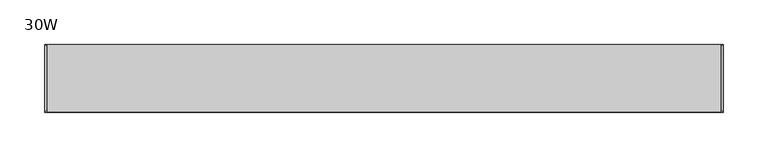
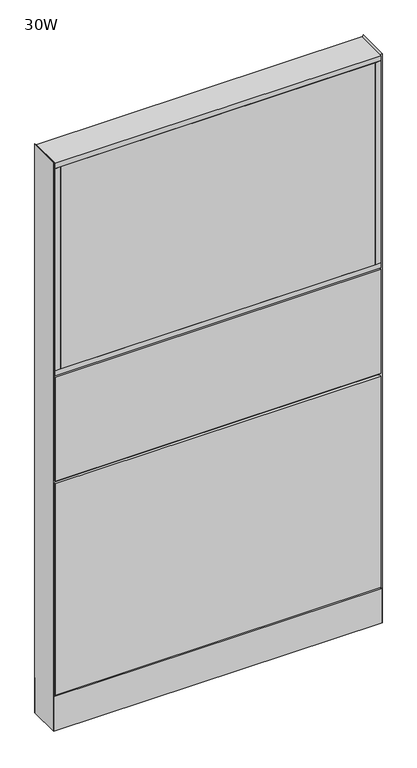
"""IFC4 building model written with IfcOpenShell, lengths in millimetres: furniture geometry, Steelcase - Montage - Frame - 55H - Enhanced Monolithic - Base Cavity : 30W."""

import ifcopenshell
import ifcopenshell.guid

model = None  # the IFC model being written
_history = None  # IfcOwnerHistory: only IFC2X3 demands one
_inside = {}  # id of a spatial element -> (the spatial element, [elements in it])
_under = {}  # id of a project, library or spatial element -> (it, [spatial elements below it])
_declared = {}  # id of a project -> (the project, [libraries it declares])
_typed = {}  # id of a type object -> (the type object, [elements of that type])
_made_of = {}  # id of a material, layer set ... -> (it, [elements and type objects made of it])


def new_model(schema):
    """Start an empty IFC model of exactly this schema.

    Asked for "IFC4X3", IfcOpenShell would pick the latest addendum, in which some entities
    have other attributes; the version numbers below select the first issue.
    IFC2X3 requires an IfcOwnerHistory on every rooted entity: one is made here for all.
    """
    global model, _history
    if schema == "IFC4X3":
        model = ifcopenshell.file(schema_version=(4, 3, 0, 0))
    else:
        model = ifcopenshell.file(schema=schema)
    _inside.clear()
    _under.clear()
    _declared.clear()
    _typed.clear()
    _made_of.clear()
    _history = None
    if model.schema == "IFC2X3":
        org = make("IfcOrganization", Name="unknown")
        user = make(
            "IfcPersonAndOrganization",
            ThePerson=make("IfcPerson", FamilyName="unknown"),
            TheOrganization=org,
        )
        app = make(
            "IfcApplication",
            ApplicationDeveloper=org,
            Version="unknown",
            ApplicationFullName="unknown",
            ApplicationIdentifier="unknown",
        )
        _history = make(
            "IfcOwnerHistory",
            OwningUser=user,
            OwningApplication=app,
            ChangeAction="ADDED",
            CreationDate=0,
        )
    return model


def make(cls, **values):
    """One entity of the class cls with the attributes given. An attribute that is None is left unset."""
    return model.create_entity(
        cls, **{name: value for name, value in values.items() if value is not None}
    )


def rooted(cls, **values):
    """An entity with a GlobalId (a new one), such as an element, a storey or a relation."""
    return make(cls, GlobalId=ifcopenshell.guid.new(), OwnerHistory=_history, **values)


def si_unit(unit_type, name, prefix=None):
    """IfcSIUnit, for example si_unit("LENGTHUNIT", "METRE", prefix="MILLI")."""
    return make("IfcSIUnit", UnitType=unit_type, Prefix=prefix, Name=name)


def assignment(units):
    """IfcUnitAssignment: the units of a project."""
    return None if units is None else make("IfcUnitAssignment", Units=units)


def point(xyz):
    """IfcCartesianPoint."""
    return None if xyz is None else make("IfcCartesianPoint", Coordinates=xyz)


def direction(xyz):
    """IfcDirection."""
    return None if xyz is None else make("IfcDirection", DirectionRatios=xyz)


def frame(location, z_axis=None, x_axis=None):
    """IfcAxis2Placement3D, a coordinate frame: its origin and axes. An axis left out is left unset."""
    return make(
        "IfcAxis2Placement3D",
        Location=point(location),
        Axis=direction(z_axis),
        RefDirection=direction(x_axis),
    )


def frame_2d(location, x_axis=None):
    """IfcAxis2Placement2D, a coordinate frame in the plane: its origin and x axis."""
    return make(
        "IfcAxis2Placement2D", Location=point(location), RefDirection=direction(x_axis)
    )


def origin():
    """The frame at (0, 0, 0) with its axes left unset."""
    return frame((0.0, 0.0, 0.0))


def origin_with_axes():
    """The frame at (0, 0, 0) with the z axis (0, 0, 1) and the x axis (1, 0, 0) written out."""
    return frame((0.0, 0.0, 0.0), z_axis=(0.0, 0.0, 1.0), x_axis=(1.0, 0.0, 0.0))


def place(relative_to, where):
    """IfcLocalPlacement: puts the frame where relative to a parent placement (None: the world)."""
    return make(
        "IfcLocalPlacement", PlacementRelTo=relative_to, RelativePlacement=where
    )


def context(
    kind, dimensions, precision=None, world=None, true_north=None, identifier=None
):
    """IfcGeometricRepresentationContext, for example the 3D "Model" context."""
    return make(
        "IfcGeometricRepresentationContext",
        ContextIdentifier=identifier,
        ContextType=kind,
        CoordinateSpaceDimension=dimensions,
        Precision=precision,
        WorldCoordinateSystem=world,
        TrueNorth=true_north,
    )


def project(units=None, contexts=None):
    """IfcProject with its units and contexts."""
    return rooted(
        "IfcProject",
        Name="project",
        RepresentationContexts=contexts,
        UnitsInContext=assignment(units),
    )


def spatial(cls, under=None, at=None, **own):
    """A site, building, storey or space (cls), placed at a placement, below another one or the project."""
    s = rooted(cls, ObjectPlacement=at, **own)
    if under is not None:
        _under.setdefault(under.id(), (under, []))[1].append(s)
    return s


def polyline(points):
    """IfcPolyline through the points."""
    return make("IfcPolyline", Points=[point(p) for p in points])


def circle_curve(where, radius):
    """IfcCircle in the frame where."""
    return make("IfcCircle", Position=where, Radius=radius)


def trimmed(basis, trim1, trim2, sense, master):
    """IfcTrimmedCurve: the piece of a basis curve between two trims."""
    return make(
        "IfcTrimmedCurve",
        BasisCurve=basis,
        Trim1=trim1,
        Trim2=trim2,
        SenseAgreement=sense,
        MasterRepresentation=master,
    )


def segment(curve, same_sense, transition):
    """IfcCompositeCurveSegment."""
    return make(
        "IfcCompositeCurveSegment",
        Transition=transition,
        SameSense=same_sense,
        ParentCurve=curve,
    )


def composite_curve(segments, self_intersect=None):
    """IfcCompositeCurve: segments joined end to end."""
    return make("IfcCompositeCurve", Segments=segments, SelfIntersect=self_intersect)


def outline(outer, holes=None, kind="AREA"):
    """IfcArbitraryClosedProfileDef: a profile drawn as a closed curve; with holes, ...WithVoids."""
    if holes is None:
        return make("IfcArbitraryClosedProfileDef", ProfileType=kind, OuterCurve=outer)
    return make(
        "IfcArbitraryProfileDefWithVoids",
        ProfileType=kind,
        OuterCurve=outer,
        InnerCurves=holes,
    )


def extrude(swept, where, along, depth):
    """IfcExtrudedAreaSolid: the profile swept, set in the frame where, extruded along a direction by depth."""
    return make(
        "IfcExtrudedAreaSolid",
        SweptArea=swept,
        Position=where,
        ExtrudedDirection=direction(along),
        Depth=depth,
    )


def faces_of(points, faces, orient=None, outer=None):
    """IfcFace entities. A face is a list of loops; a loop is a list of indices into points, from 0.

    orient and outer hold one flag for each loop. By default every Orientation is true, the
    first loop of a face is its IfcFaceOuterBound and the others are IfcFaceBound.
    """
    made = []
    for i, loops in enumerate(faces):
        bounds = []
        for j, loop in enumerate(loops):
            is_outer = j == 0 if outer is None else outer[i][j]
            bounds.append(
                make(
                    "IfcFaceOuterBound" if is_outer else "IfcFaceBound",
                    Bound=make("IfcPolyLoop", Polygon=[points[k] for k in loop]),
                    Orientation=True if orient is None else orient[i][j],
                )
            )
        made.append(make("IfcFace", Bounds=bounds))
    return made


def faceted_brep(points, faces, orient=None, outer=None, voids=None):
    """IfcFacetedBrep: a solid bounded by flat faces; with voids (closed shells), ...WithVoids."""
    shared = [point(p) for p in points]
    hull = make("IfcClosedShell", CfsFaces=faces_of(shared, faces, orient, outer))
    if voids is None:
        return make("IfcFacetedBrep", Outer=hull)
    return make(
        "IfcFacetedBrepWithVoids",
        Outer=hull,
        Voids=[
            make(cls, CfsFaces=faces_of(shared, fs, o, b)) for cls, fs, o, b in voids
        ],
    )


def shape(context_of_items, identifier, shape_type, items):
    """IfcShapeRepresentation: the items that make up one representation, for example the "Body"."""
    return make(
        "IfcShapeRepresentation",
        ContextOfItems=context_of_items,
        RepresentationIdentifier=identifier,
        RepresentationType=shape_type,
        Items=items,
    )


def source(mapping_origin, context_of_items, identifier, shape_type, items):
    """IfcRepresentationMap: a shape defined once, which mapped items show again and again."""
    return make(
        "IfcRepresentationMap",
        MappingOrigin=mapping_origin,
        MappedRepresentation=shape(context_of_items, identifier, shape_type, items),
    )


def transform(
    local_origin,
    x_axis=None,
    y_axis=None,
    z_axis=None,
    scale=None,
    scale2=None,
    scale3=None,
    uniform=True,
):
    """IfcCartesianTransformationOperator3D, or its non-uniform kind. x_axis, y_axis, z_axis: its Axis1, 2, 3."""
    if uniform:
        return make(
            "IfcCartesianTransformationOperator3D",
            Axis1=direction(x_axis),
            Axis2=direction(y_axis),
            LocalOrigin=point(local_origin),
            Scale=scale,
            Axis3=direction(z_axis),
        )
    return make(
        "IfcCartesianTransformationOperator3DnonUniform",
        Axis1=direction(x_axis),
        Axis2=direction(y_axis),
        LocalOrigin=point(local_origin),
        Scale=scale,
        Axis3=direction(z_axis),
        Scale2=scale2,
        Scale3=scale3,
    )


def mapped(mapping_source, mapping_target):
    """IfcMappedItem: shows the shape of a source again, moved by a transform."""
    return make(
        "IfcMappedItem", MappingSource=mapping_source, MappingTarget=mapping_target
    )


def made_of(thing, what):
    """Note that an element or type object is made of a material, layer set ...; save() writes the relation."""
    if what is not None:
        _made_of.setdefault(what.id(), (what, []))[1].append(thing)
    return thing


def element(
    cls,
    number,
    at=None,
    inside=None,
    cuts=None,
    type_object=None,
    material=None,
    context=None,
    identifier="Body",
    shape_type=None,
    held_by="IfcProductDefinitionShape",
    body=None,
    shapes=None,
    **own,
):
    """One element of the class cls, such as IfcWall. Its Tag is "e" and its number.

    at: its placement. inside: the storey or other place that contains it. cuts: it is an
    opening in that element (IfcRelVoidsElement). A single representation is given by context,
    identifier, shape_type and body (its items); several are given by shapes. held_by: the class
    of the entity that holds the representations. save() writes the other relations.
    """
    e = rooted(cls, Tag="e%d" % number, ObjectPlacement=at, **own)
    if body is not None:
        shapes = [shape(context, identifier, shape_type, body)]
    if shapes is not None:
        e.Representation = make(held_by, Representations=shapes)
    if inside is not None:
        _inside.setdefault(inside.id(), (inside, []))[1].append(e)
    if cuts is not None:
        rooted(
            "IfcRelVoidsElement", RelatingBuildingElement=cuts, RelatedOpeningElement=e
        )
    if type_object is not None:
        _typed.setdefault(type_object.id(), (type_object, []))[1].append(e)
    return made_of(e, material)


def aggregate(whole, parts):
    """IfcRelAggregates: a whole, such as a stair, and the parts it consists of."""
    return rooted("IfcRelAggregates", RelatingObject=whole, RelatedObjects=parts)


def save(model, path):
    """Write the relations noted so far, then the file.

    IfcRelAggregates (storeys below a building ...), IfcRelContainedInSpatialStructure (elements
    in a storey), IfcRelDefinesByType, IfcRelAssociatesMaterial and IfcRelDeclares: one each for
    every whole, place, type object, material and project.
    """
    for whole, parts in _under.values():
        aggregate(whole, parts)
    for where, things in _inside.values():
        rooted(
            "IfcRelContainedInSpatialStructure",
            RelatedElements=things,
            RelatingStructure=where,
        )
    for kind, things in _typed.values():
        rooted("IfcRelDefinesByType", RelatedObjects=things, RelatingType=kind)
    for what, things in _made_of.values():
        rooted("IfcRelAssociatesMaterial", RelatedObjects=things, RelatingMaterial=what)
    for by, libraries in _declared.values():
        rooted("IfcRelDeclares", RelatingContext=by, RelatedDefinitions=libraries)
    model.write(path)


def furniture_30w_1dd5c096(model_context):
    return source(origin(), model_context, "Body", "SolidModel", [
        extrude(outline(polyline([(15.875, 38.1000015), (746.125, 38.1000015), (746.125, 31.7500017), (15.875, 31.7500017), (15.875, 38.1000015)])), frame((0.0, 0.0, 887.4125), z_axis=(0.0, 0.0, 1.0), x_axis=(1.0, 0.0, 0.0)), (0.0, 0.0, 1.0), 495.3),
        extrude(outline(polyline([(15.875, -31.7499985), (746.125, -31.7499985), (746.125, -38.1000015), (15.875, -38.1000015), (15.875, -31.7499985)])), frame((0.0, 0.0, 887.4125), z_axis=(0.0, 0.0, 1.0), x_axis=(1.0, 0.0, 0.0)), (0.0, 0.0, 1.0), 495.3),
        extrude(outline(polyline([(3.175, -38.1000015), (3.175, 38.1000015), (15.875, 38.1000015), (15.875, -38.1000015), (3.175, -38.1000015)])), frame((0.0, 0.0, 887.4125), z_axis=(0.0, 0.0, 1.0), x_axis=(1.0, 0.0, 0.0)), (0.0, 0.0, 1.0), 495.3),
        extrude(outline(polyline([(746.125, -38.1000015), (746.125, 38.1000015), (758.825, 38.1000015), (758.825, -38.1000015), (746.125, -38.1000015)])), frame((0.0, 0.0, 887.4125), z_axis=(0.0, 0.0, 1.0), x_axis=(1.0, 0.0, 0.0)), (0.0, 0.0, 1.0), 495.3),
        extrude(outline(polyline([(3.175, -38.1000015), (3.175, 38.1000015), (758.825, 38.1000015), (758.825, -38.1000015), (3.175, -38.1000015)])), frame((0.0, 0.0, 874.7125), z_axis=(0.0, 0.0, 1.0), x_axis=(1.0, 0.0, 0.0)), (0.0, 0.0, 1.0), 12.7),
        extrude(outline(polyline([(3.175, -38.1000015), (3.175, 38.1000015), (758.825, 38.1000015), (758.825, -38.1000015), (3.175, -38.1000015)])), frame((0.0, 0.0, 1382.7125), z_axis=(0.0, 0.0, 1.0), x_axis=(1.0, 0.0, 0.0)), (0.0, 0.0, 1.0), 12.7),
        extrude(outline(polyline([(758.825, 31.7500194), (3.175, 31.7500194), (3.175, 38.1000194), (758.825, 38.1000194), (758.825, 31.7500194)])), frame((0.0, 0.0, 615.95), z_axis=(0.0, 0.0, 1.0), x_axis=(1.0, 0.0, 0.0)), (0.0, 0.0, 1.0), 255.5875),
        extrude(outline(polyline([(758.825, 31.7500194), (3.175, 31.7500194), (3.175, 38.1000194), (758.825, 38.1000194), (758.825, 31.7500194)])), frame((0.0, 0.0, 92.075), z_axis=(0.0, 0.0, 1.0), x_axis=(1.0, 0.0, 0.0)), (0.0, 0.0, 1.0), 517.525),
        extrude(outline(polyline([(746.125, 38.1000015), (746.125, 31.7500017), (15.875, 31.7500017), (15.875, 38.1000015), (746.125, 38.1000015)])), frame((0.0, 0.0, 887.4125), z_axis=(0.0, 0.0, 1.0), x_axis=(1.0, 0.0, 0.0)), (0.0, 0.0, 1.0), 495.3),
        extrude(outline(polyline([(746.125, -31.7499985), (746.125, -38.1000015), (15.875, -38.1000015), (15.875, -31.7499985), (746.125, -31.7499985)])), frame((0.0, 0.0, 887.4125), z_axis=(0.0, 0.0, 1.0), x_axis=(1.0, 0.0, 0.0)), (0.0, 0.0, 1.0), 495.3),
        extrude(outline(polyline([(758.825, -38.1000015), (746.125, -38.1000015), (746.125, 38.1000015), (758.825, 38.1000015), (758.825, -38.1000015)])), frame((0.0, 0.0, 887.4125), z_axis=(0.0, 0.0, 1.0), x_axis=(1.0, 0.0, 0.0)), (0.0, 0.0, 1.0), 495.3),
        extrude(outline(polyline([(15.875, -38.1000015), (3.175, -38.1000015), (3.175, 38.1000015), (15.875, 38.1000015), (15.875, -38.1000015)])), frame((0.0, 0.0, 887.4125), z_axis=(0.0, 0.0, 1.0), x_axis=(1.0, 0.0, 0.0)), (0.0, 0.0, 1.0), 495.3),
        extrude(outline(polyline([(758.825, -38.1000015), (3.175, -38.1000015), (3.175, 38.1000015), (758.825, 38.1000015), (758.825, -38.1000015)])), frame((0.0, 0.0, 874.7125), z_axis=(0.0, 0.0, 1.0), x_axis=(1.0, 0.0, 0.0)), (0.0, 0.0, 1.0), 12.7),
        extrude(outline(polyline([(758.825, -38.1000015), (3.175, -38.1000015), (3.175, 38.1000015), (758.825, 38.1000015), (758.825, -38.1000015)])), frame((0.0, 0.0, 1382.7125), z_axis=(0.0, 0.0, 1.0), x_axis=(1.0, 0.0, 0.0)), (0.0, 0.0, 1.0), 12.7),
        extrude(outline(polyline([(3.175, 31.7500194), (3.175, 38.1000194), (758.825, 38.1000194), (758.825, 31.7500194), (3.175, 31.7500194)])), frame((0.0, 0.0, 615.95), z_axis=(0.0, 0.0, 1.0), x_axis=(1.0, 0.0, 0.0)), (0.0, 0.0, 1.0), 255.5875),
        extrude(outline(polyline([(3.175, 31.7500194), (3.175, 38.1000194), (758.825, 38.1000194), (758.825, 31.7500194), (3.175, 31.7500194)])), frame((0.0, 0.0, 92.075), z_axis=(0.0, 0.0, 1.0), x_axis=(1.0, 0.0, 0.0)), (0.0, 0.0, 1.0), 517.525),
        extrude(outline(polyline([(746.125, -38.1000015), (15.875, -38.1000015), (15.875, -31.7500017), (746.125, -31.7500017), (746.125, -38.1000015)])), frame((0.0, 0.0, 887.4125), z_axis=(0.0, 0.0, 1.0), x_axis=(1.0, 0.0, 0.0)), (0.0, 0.0, 1.0), 495.3),
        extrude(outline(polyline([(746.125, 31.7499985), (15.875, 31.7499985), (15.875, 38.1000015), (746.125, 38.1000015), (746.125, 31.7499985)])), frame((0.0, 0.0, 887.4125), z_axis=(0.0, 0.0, 1.0), x_axis=(1.0, 0.0, 0.0)), (0.0, 0.0, 1.0), 495.3),
        extrude(outline(polyline([(758.825, 38.1000015), (758.825, -38.1000015), (746.125, -38.1000015), (746.125, 38.1000015), (758.825, 38.1000015)])), frame((0.0, 0.0, 887.4125), z_axis=(0.0, 0.0, 1.0), x_axis=(1.0, 0.0, 0.0)), (0.0, 0.0, 1.0), 495.3),
        extrude(outline(polyline([(15.875, 38.1000015), (15.875, -38.1000015), (3.175, -38.1000015), (3.175, 38.1000015), (15.875, 38.1000015)])), frame((0.0, 0.0, 887.4125), z_axis=(0.0, 0.0, 1.0), x_axis=(1.0, 0.0, 0.0)), (0.0, 0.0, 1.0), 495.3),
        extrude(outline(polyline([(758.825, 38.1000015), (758.825, -38.1000015), (3.175, -38.1000015), (3.175, 38.1000015), (758.825, 38.1000015)])), frame((0.0, 0.0, 874.7125), z_axis=(0.0, 0.0, 1.0), x_axis=(1.0, 0.0, 0.0)), (0.0, 0.0, 1.0), 12.7),
        extrude(outline(polyline([(758.825, 38.1000015), (758.825, -38.1000015), (3.175, -38.1000015), (3.175, 38.1000015), (758.825, 38.1000015)])), frame((0.0, 0.0, 1382.7125), z_axis=(0.0, 0.0, 1.0), x_axis=(1.0, 0.0, 0.0)), (0.0, 0.0, 1.0), 12.7),
        extrude(outline(polyline([(3.175, -31.7500194), (758.825, -31.7500194), (758.825, -38.1000194), (3.175, -38.1000194), (3.175, -31.7500194)])), frame((0.0, 0.0, 615.95), z_axis=(0.0, 0.0, 1.0), x_axis=(1.0, 0.0, 0.0)), (0.0, 0.0, 1.0), 255.5875),
        extrude(outline(polyline([(3.175, -31.7500194), (758.825, -31.7500194), (758.825, -38.1000194), (3.175, -38.1000194), (3.175, -31.7500194)])), frame((0.0, 0.0, 92.075), z_axis=(0.0, 0.0, 1.0), x_axis=(1.0, 0.0, 0.0)), (0.0, 0.0, 1.0), 517.525),
        extrude(outline(polyline([(6.350003, -31.7499985), (755.649997, -31.7499985), (762.0, -38.1000015), (0.0, -38.1000015), (6.350003, -31.7499985)])), frame((0.0, 0.0, 4.064), z_axis=(0.0, 0.0, 1.0), x_axis=(1.0, 0.0, 0.0)), (0.0, 0.0, 1.0), 84.835997),
        extrude(outline(polyline([(6.3500002, 31.7500017), (0.0, 38.1000015), (762.0, 38.1000015), (755.6500002, 31.7500017), (6.3500002, 31.7500017)])), frame((0.0, 0.0, 4.064), z_axis=(0.0, 0.0, 1.0), x_axis=(1.0, 0.0, 0.0)), (0.0, 0.0, 1.0), 84.835997),
        extrude(outline(composite_curve([segment(trimmed(circle_curve(frame_2d((44.45, 0.0)), 15.24), [point((29.21, 0.0))], [point((59.69, 0.0))], False, "CARTESIAN"), True, "CONTINUOUS"), segment(trimmed(circle_curve(frame_2d((44.45, 0.0)), 15.24), [point((59.69, 0.0))], [point((29.21, 0.0))], False, "CARTESIAN"), True, "CONTINUOUS")], self_intersect=False)), origin_with_axes(), (0.0, 0.0, 1.0), 4.064),
        extrude(outline(composite_curve([segment(trimmed(circle_curve(frame_2d((717.55, 0.0)), 15.24), [point((702.31, 0.0))], [point((732.79, 0.0))], False, "CARTESIAN"), True, "CONTINUOUS"), segment(trimmed(circle_curve(frame_2d((717.55, 0.0)), 15.24), [point((732.79, 0.0))], [point((702.31, 0.0))], False, "CARTESIAN"), True, "CONTINUOUS")], self_intersect=False)), origin_with_axes(), (0.0, 0.0, 1.0), 4.064),
        faceted_brep([(762.0, -38.1000106, 4.064), (762.0, 38.1000015, 4.064), (762.0, 38.1000015, 1398.5875), (762.0, -38.1000106, 1398.5874637), (0.0, 38.1000015, 4.064), (0.0, -38.1000015, 4.064), (0.0, -38.1000015, 1398.5875), (0.0, 38.1000015, 1398.5875), (755.6499879, 31.7500017, 606.425), (6.35, 31.7500017, 606.425), (6.3499998, 31.7500017, 619.125), (755.6499879, 31.7500017, 619.125), (6.35, -31.7499985, 619.125), (755.6499879, -31.7499985, 619.125), (6.350003, -31.7499985, 606.425), (755.6499879, -31.7499985, 606.425), (6.35, 31.7500015, 4.064), (6.35, -31.7500015, 4.064), (755.6499879, 31.7499894, 4.064), (755.6499879, -31.7499985, 4.064), (6.35, 31.7500015, 1392.2375), (6.35, -31.7500015, 1392.2375), (755.6499879, -31.7499985, 1392.2374516), (755.6499879, 31.7499895, 1392.2374516)], [[[0, 1, 2, 3]], [[4, 5, 6, 7]], [[8, 9, 10, 11]], [[11, 10, 12, 13]], [[13, 12, 14, 15]], [[9, 8, 15, 14]], [[16, 17, 5, 4]], [[18, 1, 0, 19]], [[16, 4, 7, 20, 10, 9]], [[5, 17, 14, 12, 21, 6]], [[12, 10, 20, 21]], [[17, 16, 9, 14]], [[11, 13, 22, 23]], [[18, 19, 15, 8]], [[19, 0, 3, 22, 13, 15]], [[1, 18, 8, 11, 23, 2]], [[7, 6, 21, 20]], [[3, 2, 23, 22]]]),
    ])


if __name__ == "__main__":
    model = new_model("IFC4")
    model_context = context("Model", 3, world=origin())
    ifc_project = project(units=[si_unit("LENGTHUNIT", "METRE", prefix="MILLI")], contexts=[model_context])
    site = spatial("IfcSite", under=ifc_project)
    building = spatial("IfcBuilding", under=site)
    placement = place(None, origin())
    furniture_30w_shape = furniture_30w_1dd5c096(model_context)
    element("IfcFurniture", 1, ObjectType="Steelcase - Montage - Frame - 55H - Enhanced Monolithic - Base Cavity : 30W", at=placement, inside=building, context=model_context, shape_type="MappedRepresentation", body=[
        mapped(furniture_30w_shape, transform((0.0, 0.0, 0.0), x_axis=(1.0, 0.0, 0.0), y_axis=(0.0, 1.0, 0.0), z_axis=(0.0, 0.0, 1.0))),
    ])
    save(model, "model.ifc")
